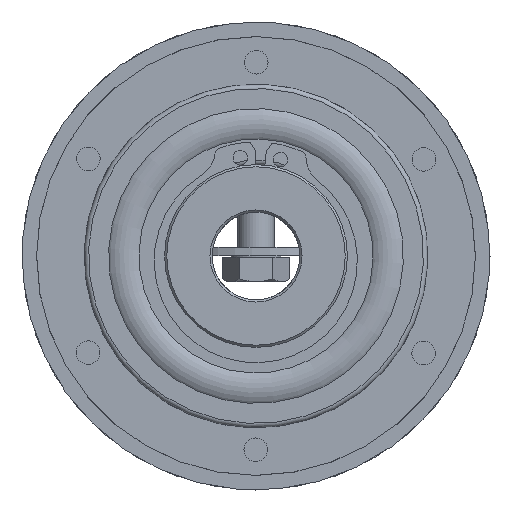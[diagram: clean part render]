
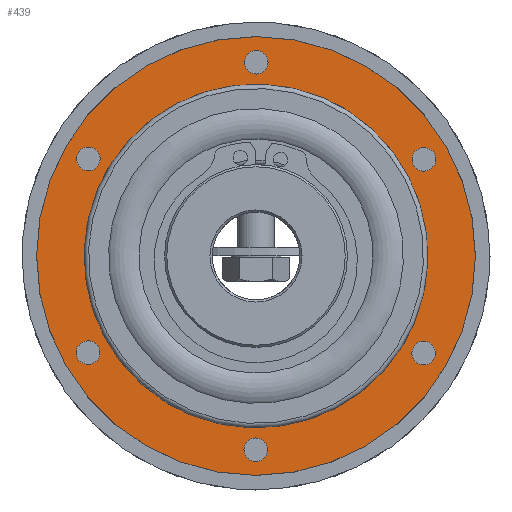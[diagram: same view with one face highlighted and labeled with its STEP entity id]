
A CAD part, left-side view. The second image highlights one B-rep face of the part: STEP entity #439.
In plain terms, the highlighted planar face has unit normal (-1, 0, 0).
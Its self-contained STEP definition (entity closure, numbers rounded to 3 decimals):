
#439 = ADVANCED_FACE( '', ( #810, #811, #812, #813, #814, #815, #816, #817 ), #818, .F. );
#810 = FACE_OUTER_BOUND( '', #1238, .T. );
#811 = FACE_BOUND( '', #1239, .T. );
#812 = FACE_BOUND( '', #1240, .T. );
#813 = FACE_BOUND( '', #1241, .T. );
#814 = FACE_BOUND( '', #1242, .T. );
#815 = FACE_BOUND( '', #1243, .T. );
#816 = FACE_BOUND( '', #1244, .T. );
#817 = FACE_BOUND( '', #1245, .T. );
#818 = PLANE( '', #1246 );
#1238 = EDGE_LOOP( '', ( #2124 ) );
#1239 = EDGE_LOOP( '', ( #2125 ) );
#1240 = EDGE_LOOP( '', ( #2126 ) );
#1241 = EDGE_LOOP( '', ( #2127 ) );
#1242 = EDGE_LOOP( '', ( #2128 ) );
#1243 = EDGE_LOOP( '', ( #2129 ) );
#1244 = EDGE_LOOP( '', ( #2130 ) );
#1245 = EDGE_LOOP( '', ( #2131 ) );
#1246 = AXIS2_PLACEMENT_3D( '', #2132, #2133, #2134 );
#2124 = ORIENTED_EDGE( '', *, *, #2466, .T. );
#2125 = ORIENTED_EDGE( '', *, *, #2465, .T. );
#2126 = ORIENTED_EDGE( '', *, *, #2462, .T. );
#2127 = ORIENTED_EDGE( '', *, *, #2464, .T. );
#2128 = ORIENTED_EDGE( '', *, *, #2467, .T. );
#2129 = ORIENTED_EDGE( '', *, *, #2468, .T. );
#2130 = ORIENTED_EDGE( '', *, *, #2469, .T. );
#2131 = ORIENTED_EDGE( '', *, *, #2470, .F. );
#2132 = CARTESIAN_POINT( '', ( -12., 30., 0. ) );
#2133 = DIRECTION( '', ( 1., 0., 0. ) );
#2134 = DIRECTION( '', ( 0., 1., 0. ) );
#2462 = EDGE_CURVE( '', #2864, #2864, #2865, .T. );
#2464 = EDGE_CURVE( '', #2868, #2868, #2869, .T. );
#2465 = EDGE_CURVE( '', #2870, #2870, #2871, .T. );
#2466 = EDGE_CURVE( '', #2872, #2872, #2873, .T. );
#2467 = EDGE_CURVE( '', #2874, #2874, #2875, .T. );
#2468 = EDGE_CURVE( '', #2876, #2876, #2877, .T. );
#2469 = EDGE_CURVE( '', #2878, #2878, #2879, .T. );
#2470 = EDGE_CURVE( '', #2880, #2880, #2881, .T. );
#2864 = VERTEX_POINT( '', #3696 );
#2865 = CIRCLE( '', #3697, 1.621 );
#2868 = VERTEX_POINT( '', #3700 );
#2869 = CIRCLE( '', #3701, 1.621 );
#2870 = VERTEX_POINT( '', #3702 );
#2871 = CIRCLE( '', #3703, 1.621 );
#2872 = VERTEX_POINT( '', #3704 );
#2873 = CIRCLE( '', #3705, 30. );
#2874 = VERTEX_POINT( '', #3706 );
#2875 = CIRCLE( '', #3707, 1.621 );
#2876 = VERTEX_POINT( '', #3708 );
#2877 = CIRCLE( '', #3709, 1.621 );
#2878 = VERTEX_POINT( '', #3710 );
#2879 = CIRCLE( '', #3711, 1.621 );
#2880 = VERTEX_POINT( '', #3712 );
#2881 = CIRCLE( '', #3713, 23.5 );
#3696 = CARTESIAN_POINT( '', ( -12., 24.354, -14.061 ) );
#3697 = AXIS2_PLACEMENT_3D( '', #4215, #4216, #4217 );
#3700 = CARTESIAN_POINT( '', ( -12., 0., -28.121 ) );
#3701 = AXIS2_PLACEMENT_3D( '', #4221, #4222, #4223 );
#3702 = CARTESIAN_POINT( '', ( -12., 24.354, 14.061 ) );
#3703 = AXIS2_PLACEMENT_3D( '', #4224, #4225, #4226 );
#3704 = CARTESIAN_POINT( '', ( -12., 0., 30. ) );
#3705 = AXIS2_PLACEMENT_3D( '', #4227, #4228, #4229 );
#3706 = CARTESIAN_POINT( '', ( -12., -24.354, -14.061 ) );
#3707 = AXIS2_PLACEMENT_3D( '', #4230, #4231, #4232 );
#3708 = CARTESIAN_POINT( '', ( -12., -24.354, 14.061 ) );
#3709 = AXIS2_PLACEMENT_3D( '', #4233, #4234, #4235 );
#3710 = CARTESIAN_POINT( '', ( -12., 0., 28.121 ) );
#3711 = AXIS2_PLACEMENT_3D( '', #4236, #4237, #4238 );
#3712 = CARTESIAN_POINT( '', ( -12., 0., 23.5 ) );
#3713 = AXIS2_PLACEMENT_3D( '', #4239, #4240, #4241 );
#4215 = CARTESIAN_POINT( '', ( -12., 22.95, -13.25 ) );
#4216 = DIRECTION( '', ( 1., 0., 0. ) );
#4217 = DIRECTION( '', ( 0., 0.866, -0.5 ) );
#4221 = CARTESIAN_POINT( '', ( -12., 0., -26.5 ) );
#4222 = DIRECTION( '', ( 1., 0., 0. ) );
#4223 = DIRECTION( '', ( 0., 0., -1. ) );
#4224 = CARTESIAN_POINT( '', ( -12., 22.95, 13.25 ) );
#4225 = DIRECTION( '', ( 1., 0., 0. ) );
#4226 = DIRECTION( '', ( 0., 0.866, 0.5 ) );
#4227 = CARTESIAN_POINT( '', ( -12., 0., 0. ) );
#4228 = DIRECTION( '', ( -1., 0., 0. ) );
#4229 = DIRECTION( '', ( 0., 0., 1. ) );
#4230 = CARTESIAN_POINT( '', ( -12., -22.95, -13.25 ) );
#4231 = DIRECTION( '', ( 1., 0., 0. ) );
#4232 = DIRECTION( '', ( 0., -0.866, -0.5 ) );
#4233 = CARTESIAN_POINT( '', ( -12., -22.95, 13.25 ) );
#4234 = DIRECTION( '', ( 1., 0., 0. ) );
#4235 = DIRECTION( '', ( 0., -0.866, 0.5 ) );
#4236 = CARTESIAN_POINT( '', ( -12., 0., 26.5 ) );
#4237 = DIRECTION( '', ( 1., 0., 0. ) );
#4238 = DIRECTION( '', ( 0., 0., 1. ) );
#4239 = CARTESIAN_POINT( '', ( -12., 0., 0. ) );
#4240 = DIRECTION( '', ( -1., 0., 0. ) );
#4241 = DIRECTION( '', ( 0., 0., 1. ) );
